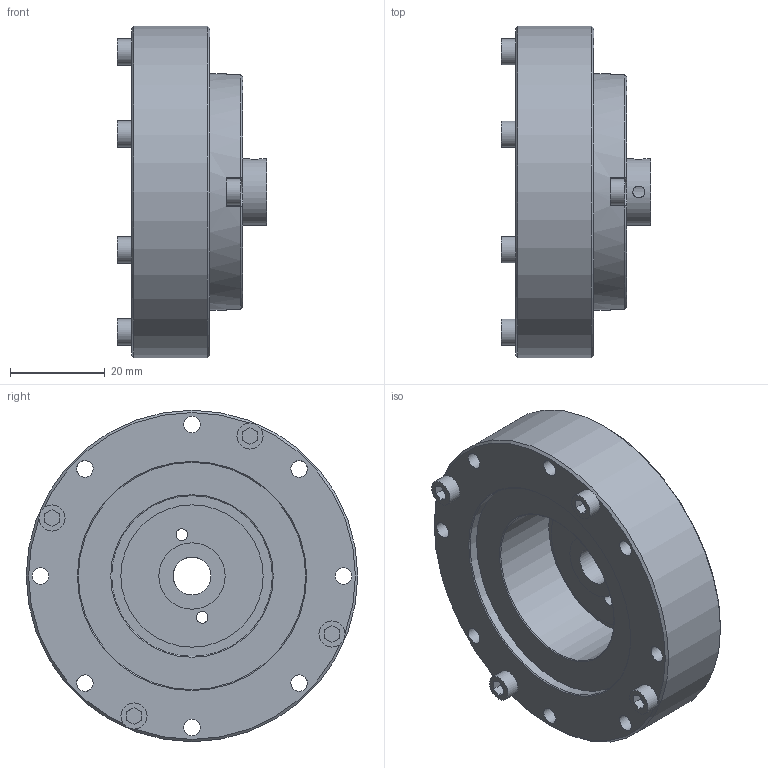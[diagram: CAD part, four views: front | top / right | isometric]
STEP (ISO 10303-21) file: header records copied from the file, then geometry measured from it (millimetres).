
FILE_DESCRIPTION(/* description */ (''),/* implementation_level */ '2;1');
FILE_NAME(/* name */ 'LHT-14-U-I',/* time_stamp */ '2017-09-16T16:00:59+08:00',/* author */ (''),/* organization */ (''),/* preprocessor_version */ 'ST-DEVELOPER v9',/* originating_system */ 'UGS - NX 4.0',/* authorisation */ '');
FILE_SCHEMA (('AUTOMOTIVE_DESIGN { 1 0 10303 214 1 1 1 1 }'));
Length unit declared in the file: millimetre
Products named in the file (1): Admi85A9d2rg
Bounding box: 31.5 x 70 x 70 mm (x, y, z)
Volume: 58975.2 mm3; surface area: 21566.3 mm2
Topology: 12 solids, 12 shells, 231 faces, 542 edges, 358 vertices
Faces by surface type: plane 121, cylinder 73, cone 36, torus 1
Full cylindrical faces by diameter (mm): 2.459 x2, 2.5 x14, 3 x4, 3.5 x30, 5.5 x10, 8 x1, 14 x2, 30.04 x1, 33.92 x2, 48 x1, 50 x1, 70 x1
Entity records: 6017 total; most frequent: CARTESIAN_POINT 1160, DIRECTION 1008, ORIENTED_EDGE 764, AXIS2_PLACEMENT_3D 398, EDGE_LOOP 386, EDGE_CURVE 382, VERTEX_POINT 318, FACE_BOUND 241
